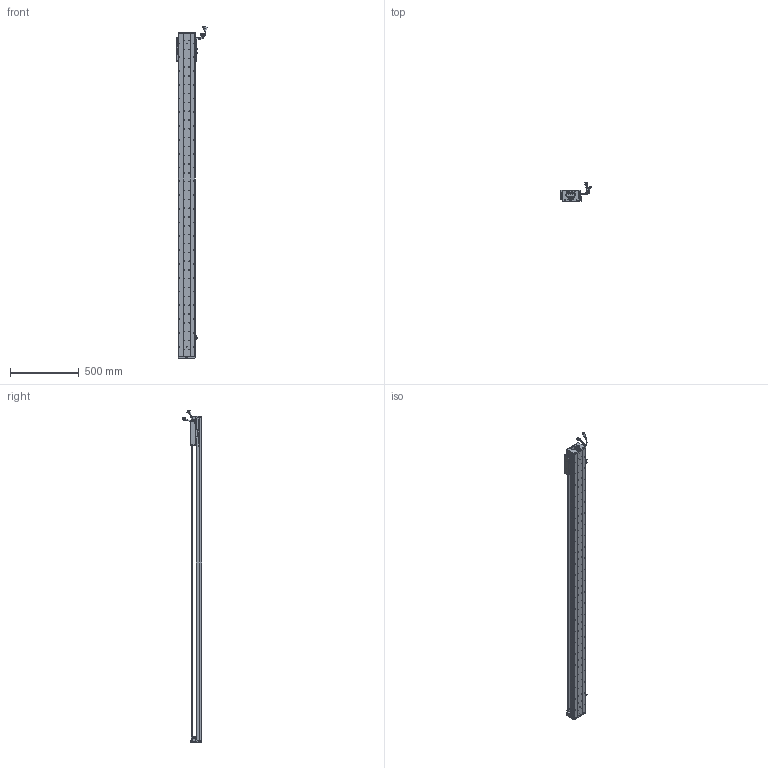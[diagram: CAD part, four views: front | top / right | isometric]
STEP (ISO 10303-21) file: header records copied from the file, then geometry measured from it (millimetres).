
FILE_DESCRIPTION (( 'STEP AP203' ), '1' );
FILE_NAME ('Z2-RY120D-1-L500-B-K.SLDASM_2100.step', '2021-05-17T05:37:59', ( '盈信电脑' ), ( '东莞市道滘镇水果街19号' ), 'SwSTEP 2.0', 'SolidWorks 2016', '' );
FILE_SCHEMA (( 'CONFIG_CONTROL_DESIGN' ));
Length unit declared in the file: millimetre
Products named in the file (37): HARNESS; SCREW-M1.7; Z-RY120D詩湍狟揤裔; 120-Z-臏賑輸盄裔(21遴); SCREW-M1.6-3; HARNESS-Part-1; Z2-RY120-L500詩湍100mm遵_2100; Z2-RY120D-1-L500-B-K.SLDASM_2100; SEAL-Part-1; SCALE; 140蚥薯蝶輸; PBU_SHEET; SCREW-M1.7-1; 140雄赽晤鎢ん堤盄; Z-RY120D詩湍奻揤裔; 覜茼ん672; 榋妏寠巭燃_暯_M2_2; Z-120詩湍傷裔啣; SHIELDPLATE; RY100FB-遵嫖萇覜茼え; 080黍杅芛假蚾釱21遴; PSLH080_PSLF2; COVER-Part-1; SCREW-M1.6-1; LABEL-Part-1; SCALE-Part-1; SCREW-M1.6-2; SCALE-Part-2; HARNESS-Part-2; LABEL; Z2-RY120铝滑块（21款）; SCREW-M1.6; HOLDER0; Z2-RY120-500-倰第菁釱_2100; 672嫖萇羲壽假蚾釱; SEAL; COVER
Assembly tree (43 placements, depth 4):
  Z2-RY120D-1-L500-B-K.SLDASM_2100
    Z2-RY120-500-倰第菁釱_2100
    覜茼ん672  x3
    672嫖萇羲壽假蚾釱  x2
    Z2-RY120铝滑块（21款）
    PSLH080_PSLF2
      SCALE
        SCALE-Part-1
        SCALE-Part-2
      HARNESS
        HARNESS-Part-1
        HARNESS-Part-2
      LABEL
        LABEL-Part-1
      COVER
        COVER-Part-1
      SEAL
        SEAL-Part-1
      榋妏寠巭燃_暯_M2_2
      SHIELDPLATE
      SCREW-M1.7
      SCREW-M1.7-1
      PBU_SHEET
      SCREW-M1.6
      SCREW-M1.6-1
      SCREW-M1.6-2
      SCREW-M1.6-3
      HOLDER0
    080黍杅芛假蚾釱21遴
    120-Z-臏賑輸盄裔(21遴)
    140雄赽晤鎢ん堤盄
    140蚥薯蝶輸  x2
    RY100FB-遵嫖萇覜茼え
    Z-120詩湍傷裔啣  x2
    Z-RY120D詩湍奻揤裔  x2
    Z-RY120D詩湍狟揤裔  x2
    Z2-RY120-L500詩湍100mm遵_2100
Bounding box: 222.88 x 140.94 x 2408.99 mm (x, y, z)
Volume: 5586196.4 mm3; surface area: 1971254.5 mm2
Topology: 38 solids, 38 shells, 3505 faces, 9910 edges, 6256 vertices
Faces by surface type: cylinder 1802, plane 1223, cone 358, torus 69, bspline 53
Entity records: 115859 total; most frequent: CARTESIAN_POINT 34908, ORIENTED_EDGE 16628, DIRECTION 15376, EDGE_CURVE 8314, AXIS2_PLACEMENT_3D 5674, VERTEX_POINT 5376, VECTOR 4028, LINE 4028
